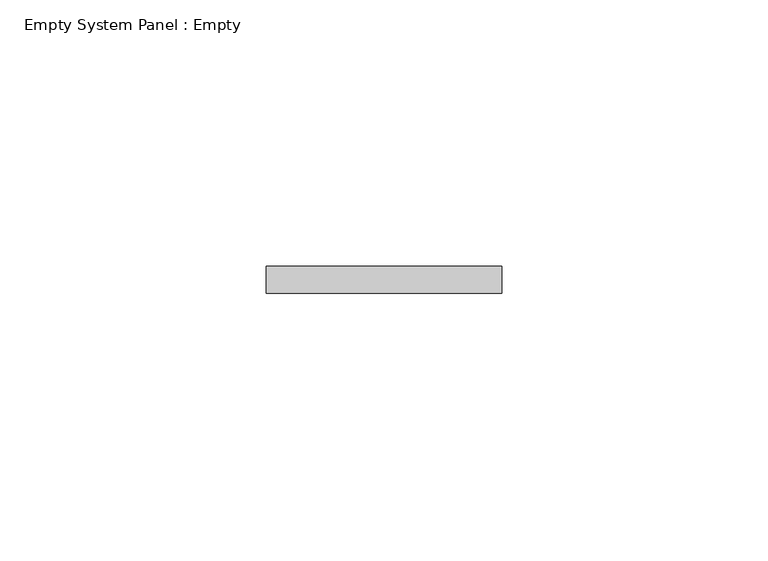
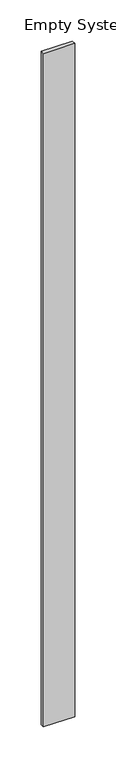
"""IFC4 building model written with IfcOpenShell, lengths in millimetres: plate geometry, Empty System Panel : Empty."""

from ifc_helpers import new_model, si_unit, origin, origin_with_axes, place, context, project, spatial, polyline, outline, extrude, source, transform, mapped, element, save


def empty_system_panel_empty_21c3a13d(model_context):
    return source(origin(), model_context, "Body", "SweptSolid", [
        extrude(outline(polyline([(22.0499165, 97.5), (-22.0499165, 97.5), (-22.0499165, 102.5), (22.0499165, 102.5), (22.0499165, 97.5)])), origin_with_axes(), (0.0, 0.0, 1.0), 1000.0),
    ])


if __name__ == "__main__":
    model = new_model("IFC4")
    model_context = context("Model", 3, world=origin())
    ifc_project = project(units=[si_unit("LENGTHUNIT", "METRE", prefix="MILLI")], contexts=[model_context])
    site = spatial("IfcSite", under=ifc_project)
    building = spatial("IfcBuilding", under=site)
    placement = place(None, origin())
    empty_system_panel_empty_shape = empty_system_panel_empty_21c3a13d(model_context)
    element("IfcPlate", 1, ObjectType="Empty System Panel : Empty", at=placement, inside=building, context=model_context, shape_type="MappedRepresentation", body=[
        mapped(empty_system_panel_empty_shape, transform((0.0, 0.0, 0.0), x_axis=(1.0, 0.0, 0.0), y_axis=(0.0, 1.0, 0.0), z_axis=(0.0, 0.0, 1.0))),
    ])
    save(model, "model.ifc")
